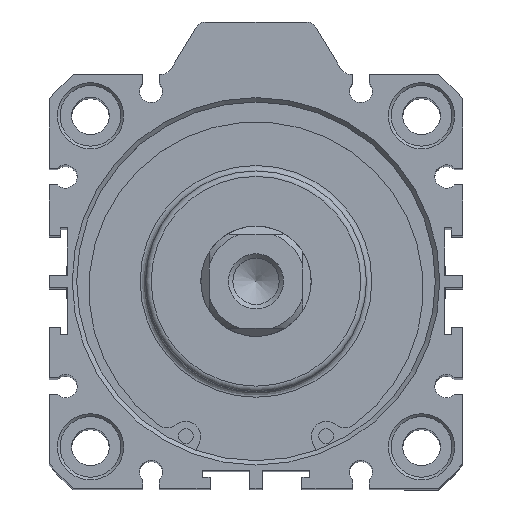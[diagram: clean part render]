
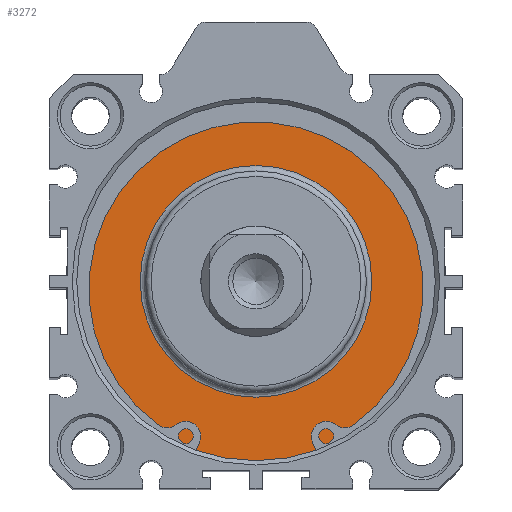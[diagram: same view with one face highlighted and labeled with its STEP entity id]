
A CAD part, top view. The second image highlights one B-rep face of the part: STEP entity #3272.
In plain terms, the highlighted planar face has unit normal (0, 0, 1).
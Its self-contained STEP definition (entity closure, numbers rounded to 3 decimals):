
#3221=CARTESIAN_POINT('',(0.359,19.684,177.3));
#3222=VERTEX_POINT('',#3221);
#3223=CARTESIAN_POINT('',(0.359,-1.316,177.3));
#3224=DIRECTION('',(0.0,0.0,1.0));
#3225=DIRECTION('',(0.0,-1.0,0.0));
#3226=AXIS2_PLACEMENT_3D('',#3223,#3224,#3225);
#3227=CIRCLE('',#3226,21.);
#3228=EDGE_CURVE('',#3222,#3222,#3227,.T.);
#3253=CARTESIAN_POINT('',(0.359,24.934,177.3));
#3254=DIRECTION('',(0.0,0.0,1.0));
#3255=DIRECTION('',(1.0,0.0,0.0));
#3256=AXIS2_PLACEMENT_3D('',#3253,#3254,#3255);
#3257=PLANE('',#3256);
#3258=CARTESIAN_POINT('',(0.359,31.184,177.3));
#3259=VERTEX_POINT('',#3258);
#3260=CARTESIAN_POINT('',(0.359,-1.316,177.3));
#3261=DIRECTION('',(0.0,0.0,-1.0));
#3262=DIRECTION('',(0.0,1.0,0.0));
#3263=AXIS2_PLACEMENT_3D('',#3260,#3261,#3262);
#3264=CIRCLE('',#3263,32.5);
#3265=EDGE_CURVE('',#3259,#3259,#3264,.T.);
#3266=ORIENTED_EDGE('',*,*,#3265,.F.);
#3267=EDGE_LOOP('',(#3266));
#3268=FACE_OUTER_BOUND('',#3267,.T.);
#3269=ORIENTED_EDGE('',*,*,#3228,.F.);
#3270=EDGE_LOOP('',(#3269));
#3271=FACE_BOUND('',#3270,.T.);
#3272=ADVANCED_FACE('',(#3268,#3271),#3257,.T.);
